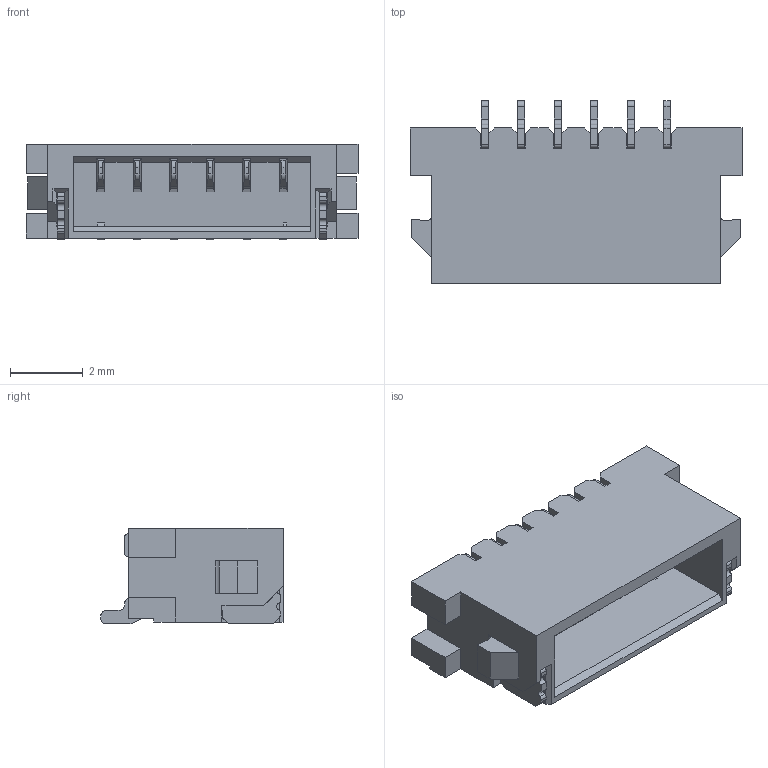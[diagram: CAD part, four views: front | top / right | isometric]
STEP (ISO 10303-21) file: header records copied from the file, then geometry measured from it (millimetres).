
FILE_DESCRIPTION((''),'2;1');
FILE_NAME('PRT0002','2017-03-20T',('k41758'),(''),'PRO/ENGINEER BY PARAMETRIC TECHNOLOGY CORPORATION, 2009360','PRO/ENGINEER BY PARAMETRIC TECHNOLOGY CORPORATION, 2009360','');
FILE_SCHEMA(('CONFIG_CONTROL_DESIGN'));
Length unit declared in the file: millimetre
Products named in the file (1): PRT0002
Bounding box: 9.1 x 5 x 2.63 mm (x, y, z)
Volume: 55 mm3; surface area: 270.9 mm2
Topology: 1 solids, 1 shells, 500 faces, 1651 edges, 1178 vertices
Faces by surface type: plane 362, cylinder 138
Entity records: 17936 total; most frequent: CARTESIAN_POINT 3336, ORIENTED_EDGE 3170, DIRECTION 2875, EDGE_CURVE 1585, VECTOR 1375, LINE 1375, VERTEX_POINT 1050, AXIS2_PLACEMENT_3D 750
